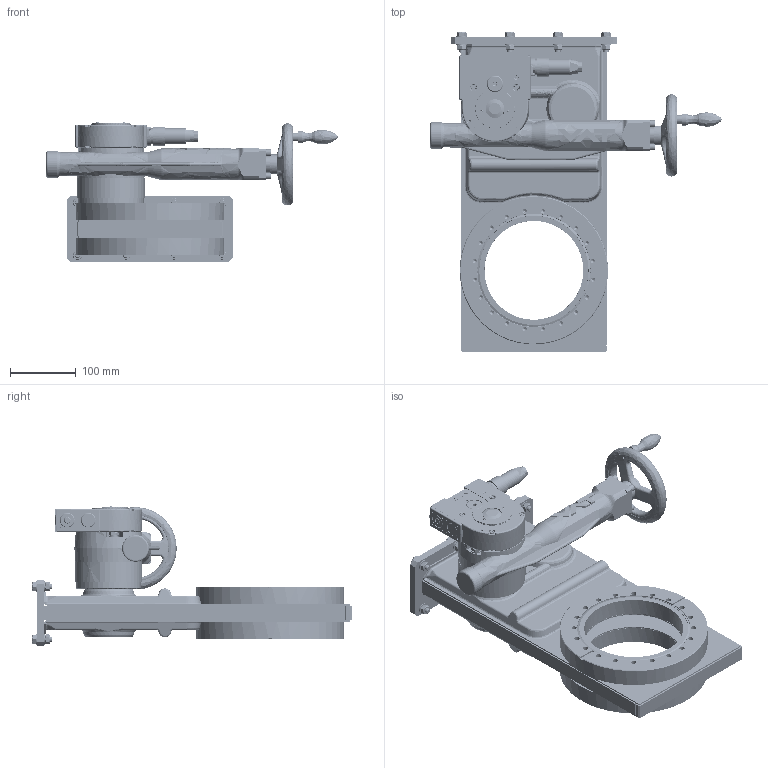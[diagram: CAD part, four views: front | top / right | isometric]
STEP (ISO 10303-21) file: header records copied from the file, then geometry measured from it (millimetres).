
FILE_DESCRIPTION((''),'2;1');
FILE_NAME('O:\MT\MT\Systeme\Cad\Datenexporte\www_vat_ch\237750.stp','2005-07-29T07:37:51',('User'),('SDRC'),'I-DEAS Master Series 9','UNIX','Yes');
FILE_SCHEMA(('CONFIG_CONTROL_DESIGN'));
Length unit declared in the file: millimetre
Assembly tree (98 placements, depth 0):
Bounding box: 441.8 x 483.9 x 211.95 mm (x, y, z)
Volume: 3315887.6 mm3; surface area: 1123979.9 mm2
Topology: 130 solids, 130 shells, 3569 faces, 8443 edges, 5402 vertices
Faces by surface type: bspline 3569
Entity records: 89160 total; most frequent: CARTESIAN_POINT 46381, ORIENTED_EDGE 11974, EDGE_CURVE 5987, VERTEX_POINT 3873, EDGE_LOOP 2810, FACE_OUTER_BOUND 2428, ADVANCED_FACE 2428, QUASI_UNIFORM_CURVE 2216
